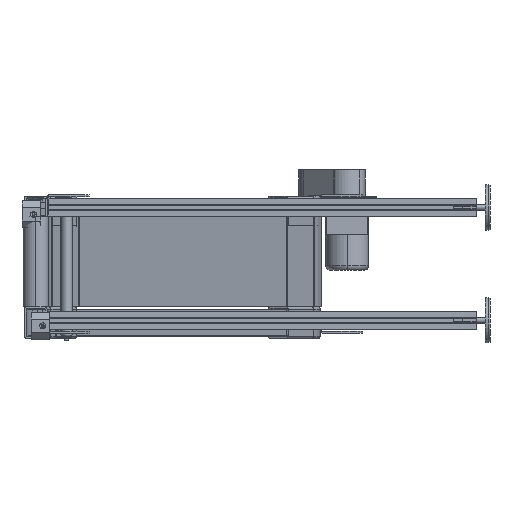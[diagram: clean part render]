
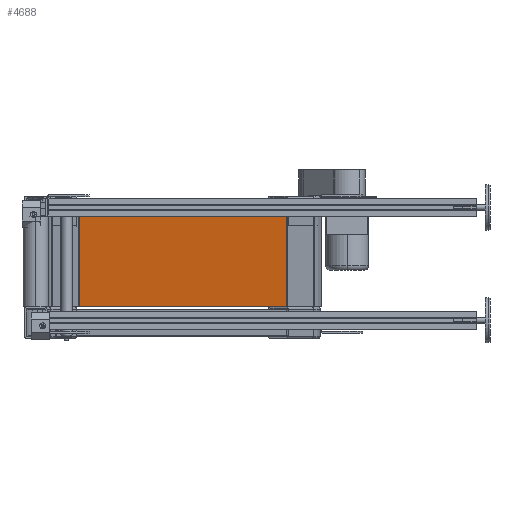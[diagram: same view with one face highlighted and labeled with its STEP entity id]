
A CAD part, left-side view. The second image highlights one B-rep face of the part: STEP entity #4688.
In plain terms, the highlighted planar face has unit normal (-0.469, -0.883, 0).
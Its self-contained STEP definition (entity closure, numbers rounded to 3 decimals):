
#4688=ADVANCED_FACE('',(#6524),#5365,.F.);
#5365=PLANE('',#24913);
#6524=FACE_OUTER_BOUND('',#7854,.T.);
#7854=EDGE_LOOP('',(#14234,#14235,#14236,#14237));
#14234=ORIENTED_EDGE('',*,*,#19752,.T.);
#14235=ORIENTED_EDGE('',*,*,#19753,.F.);
#14236=ORIENTED_EDGE('',*,*,#19754,.F.);
#14237=ORIENTED_EDGE('',*,*,#19750,.T.);
#16516=VERTEX_POINT('',#42939);
#16517=VERTEX_POINT('',#42941);
#16518=VERTEX_POINT('',#42945);
#16519=VERTEX_POINT('',#42947);
#19750=EDGE_CURVE('\X2\8FB97EBF\X0\2',#16517,#16516,#21528,.T.);
#19752=EDGE_CURVE('',#16516,#16518,#21530,.T.);
#19753=EDGE_CURVE('\X2\8FB97EBF\X0\5',#16519,#16518,#21531,.T.);
#19754=EDGE_CURVE('',#16517,#16519,#21532,.T.);
#21528=LINE('',#42940,#23655);
#21530=LINE('',#42944,#23657);
#21531=LINE('',#42946,#23658);
#21532=LINE('',#42948,#23659);
#23655=VECTOR('',#29448,1.);
#23657=VECTOR('',#29452,1.);
#23658=VECTOR('',#29453,1.);
#23659=VECTOR('',#29454,1.);
#24913=AXIS2_PLACEMENT_3D('',#42949,#29455,#29456);
#29448=DIRECTION('',(0.,0.,-1.));
#29452=DIRECTION('',(0.883,-0.469,0.));
#29453=DIRECTION('',(0.,0.,-1.));
#29454=DIRECTION('',(0.883,-0.469,0.));
#29455=DIRECTION('',(0.469,0.883,0.));
#29456=DIRECTION('',(0.883,-0.469,0.));
#42939=CARTESIAN_POINT('',(246.819,-96.52,0.));
#42940=CARTESIAN_POINT('',(246.819,-96.52,200.));
#42941=CARTESIAN_POINT('',(246.819,-96.52,200.));
#42944=CARTESIAN_POINT('',(246.819,-96.52,0.));
#42945=CARTESIAN_POINT('',(1116.109,-557.597,0.));
#42946=CARTESIAN_POINT('',(1116.109,-557.597,200.));
#42947=CARTESIAN_POINT('',(1116.109,-557.597,200.));
#42948=CARTESIAN_POINT('',(246.819,-96.52,200.));
#42949=CARTESIAN_POINT('',(246.819,-96.52,200.));
